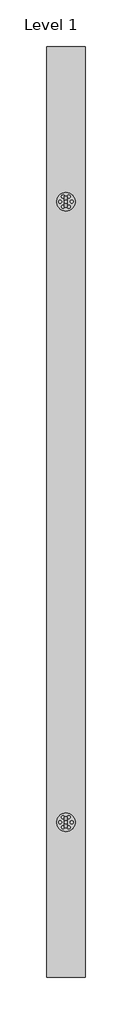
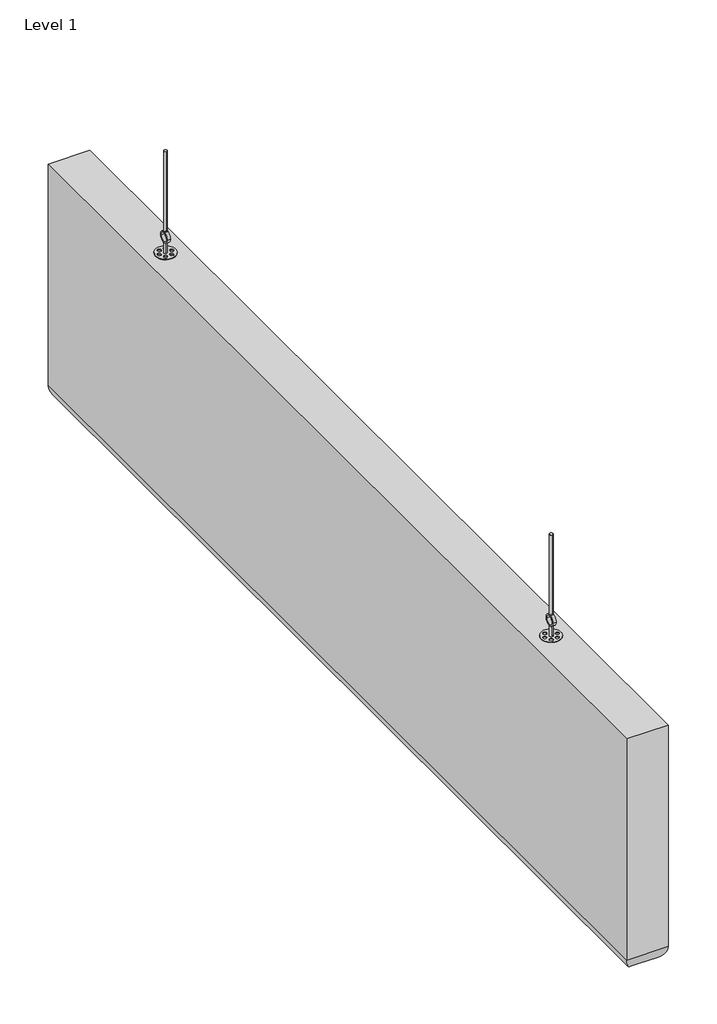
# One storey: 1 proxy.
"""IFC4 building model written with IfcOpenShell, lengths in millimetres."""

import ifcopenshell
import ifcopenshell.guid

model = None  # the IFC model being written
_history = None  # IfcOwnerHistory: only IFC2X3 demands one
_inside = {}  # id of a spatial element -> (the spatial element, [elements in it])
_under = {}  # id of a project, library or spatial element -> (it, [spatial elements below it])
_declared = {}  # id of a project -> (the project, [libraries it declares])
_typed = {}  # id of a type object -> (the type object, [elements of that type])
_made_of = {}  # id of a material, layer set ... -> (it, [elements and type objects made of it])


def new_model(schema):
    """Start an empty IFC model of exactly this schema.

    Asked for "IFC4X3", IfcOpenShell would pick the latest addendum, in which some entities
    have other attributes; the version numbers below select the first issue.
    IFC2X3 requires an IfcOwnerHistory on every rooted entity: one is made here for all.
    """
    global model, _history
    if schema == "IFC4X3":
        model = ifcopenshell.file(schema_version=(4, 3, 0, 0))
    else:
        model = ifcopenshell.file(schema=schema)
    _inside.clear()
    _under.clear()
    _declared.clear()
    _typed.clear()
    _made_of.clear()
    _history = None
    if model.schema == "IFC2X3":
        org = make("IfcOrganization", Name="unknown")
        user = make(
            "IfcPersonAndOrganization",
            ThePerson=make("IfcPerson", FamilyName="unknown"),
            TheOrganization=org,
        )
        app = make(
            "IfcApplication",
            ApplicationDeveloper=org,
            Version="unknown",
            ApplicationFullName="unknown",
            ApplicationIdentifier="unknown",
        )
        _history = make(
            "IfcOwnerHistory",
            OwningUser=user,
            OwningApplication=app,
            ChangeAction="ADDED",
            CreationDate=0,
        )
    return model


def make(cls, **values):
    """One entity of the class cls with the attributes given. An attribute that is None is left unset."""
    return model.create_entity(
        cls, **{name: value for name, value in values.items() if value is not None}
    )


def rooted(cls, **values):
    """An entity with a GlobalId (a new one), such as an element, a storey or a relation."""
    return make(cls, GlobalId=ifcopenshell.guid.new(), OwnerHistory=_history, **values)


def si_unit(unit_type, name, prefix=None):
    """IfcSIUnit, for example si_unit("LENGTHUNIT", "METRE", prefix="MILLI")."""
    return make("IfcSIUnit", UnitType=unit_type, Prefix=prefix, Name=name)


def assignment(units):
    """IfcUnitAssignment: the units of a project."""
    return None if units is None else make("IfcUnitAssignment", Units=units)


def point(xyz):
    """IfcCartesianPoint."""
    return None if xyz is None else make("IfcCartesianPoint", Coordinates=xyz)


def direction(xyz):
    """IfcDirection."""
    return None if xyz is None else make("IfcDirection", DirectionRatios=xyz)


def frame(location, z_axis=None, x_axis=None):
    """IfcAxis2Placement3D, a coordinate frame: its origin and axes. An axis left out is left unset."""
    return make(
        "IfcAxis2Placement3D",
        Location=point(location),
        Axis=direction(z_axis),
        RefDirection=direction(x_axis),
    )


def frame_2d(location, x_axis=None):
    """IfcAxis2Placement2D, a coordinate frame in the plane: its origin and x axis."""
    return make(
        "IfcAxis2Placement2D", Location=point(location), RefDirection=direction(x_axis)
    )


def origin():
    """The frame at (0, 0, 0) with its axes left unset."""
    return frame((0.0, 0.0, 0.0))


def place(relative_to, where):
    """IfcLocalPlacement: puts the frame where relative to a parent placement (None: the world)."""
    return make(
        "IfcLocalPlacement", PlacementRelTo=relative_to, RelativePlacement=where
    )


def context(
    kind, dimensions, precision=None, world=None, true_north=None, identifier=None
):
    """IfcGeometricRepresentationContext, for example the 3D "Model" context."""
    return make(
        "IfcGeometricRepresentationContext",
        ContextIdentifier=identifier,
        ContextType=kind,
        CoordinateSpaceDimension=dimensions,
        Precision=precision,
        WorldCoordinateSystem=world,
        TrueNorth=true_north,
    )


def project(units=None, contexts=None):
    """IfcProject with its units and contexts."""
    return rooted(
        "IfcProject",
        Name="project",
        RepresentationContexts=contexts,
        UnitsInContext=assignment(units),
    )


def spatial(cls, under=None, at=None, **own):
    """A site, building, storey or space (cls), placed at a placement, below another one or the project."""
    s = rooted(cls, ObjectPlacement=at, **own)
    if under is not None:
        _under.setdefault(under.id(), (under, []))[1].append(s)
    return s


def circle_curve(where, radius):
    """IfcCircle in the frame where."""
    return make("IfcCircle", Position=where, Radius=radius)


def ellipse_curve(where, semi_axis1, semi_axis2):
    """IfcEllipse in the frame where."""
    return make(
        "IfcEllipse", Position=where, SemiAxis1=semi_axis1, SemiAxis2=semi_axis2
    )


def trimmed(basis, trim1, trim2, sense, master):
    """IfcTrimmedCurve: the piece of a basis curve between two trims."""
    return make(
        "IfcTrimmedCurve",
        BasisCurve=basis,
        Trim1=trim1,
        Trim2=trim2,
        SenseAgreement=sense,
        MasterRepresentation=master,
    )


def segment(curve, same_sense, transition):
    """IfcCompositeCurveSegment."""
    return make(
        "IfcCompositeCurveSegment",
        Transition=transition,
        SameSense=same_sense,
        ParentCurve=curve,
    )


def composite_curve(segments, self_intersect=None):
    """IfcCompositeCurve: segments joined end to end."""
    return make("IfcCompositeCurve", Segments=segments, SelfIntersect=self_intersect)


def outline(outer, holes=None, kind="AREA"):
    """IfcArbitraryClosedProfileDef: a profile drawn as a closed curve; with holes, ...WithVoids."""
    if holes is None:
        return make("IfcArbitraryClosedProfileDef", ProfileType=kind, OuterCurve=outer)
    return make(
        "IfcArbitraryProfileDefWithVoids",
        ProfileType=kind,
        OuterCurve=outer,
        InnerCurves=holes,
    )


def extrude(swept, where, along, depth):
    """IfcExtrudedAreaSolid: the profile swept, set in the frame where, extruded along a direction by depth."""
    return make(
        "IfcExtrudedAreaSolid",
        SweptArea=swept,
        Position=where,
        ExtrudedDirection=direction(along),
        Depth=depth,
    )


def shape(context_of_items, identifier, shape_type, items):
    """IfcShapeRepresentation: the items that make up one representation, for example the "Body"."""
    return make(
        "IfcShapeRepresentation",
        ContextOfItems=context_of_items,
        RepresentationIdentifier=identifier,
        RepresentationType=shape_type,
        Items=items,
    )


def source(mapping_origin, context_of_items, identifier, shape_type, items):
    """IfcRepresentationMap: a shape defined once, which mapped items show again and again."""
    return make(
        "IfcRepresentationMap",
        MappingOrigin=mapping_origin,
        MappedRepresentation=shape(context_of_items, identifier, shape_type, items),
    )


def transform(
    local_origin,
    x_axis=None,
    y_axis=None,
    z_axis=None,
    scale=None,
    scale2=None,
    scale3=None,
    uniform=True,
):
    """IfcCartesianTransformationOperator3D, or its non-uniform kind. x_axis, y_axis, z_axis: its Axis1, 2, 3."""
    if uniform:
        return make(
            "IfcCartesianTransformationOperator3D",
            Axis1=direction(x_axis),
            Axis2=direction(y_axis),
            LocalOrigin=point(local_origin),
            Scale=scale,
            Axis3=direction(z_axis),
        )
    return make(
        "IfcCartesianTransformationOperator3DnonUniform",
        Axis1=direction(x_axis),
        Axis2=direction(y_axis),
        LocalOrigin=point(local_origin),
        Scale=scale,
        Axis3=direction(z_axis),
        Scale2=scale2,
        Scale3=scale3,
    )


def mapped(mapping_source, mapping_target):
    """IfcMappedItem: shows the shape of a source again, moved by a transform."""
    return make(
        "IfcMappedItem", MappingSource=mapping_source, MappingTarget=mapping_target
    )


def made_of(thing, what):
    """Note that an element or type object is made of a material, layer set ...; save() writes the relation."""
    if what is not None:
        _made_of.setdefault(what.id(), (what, []))[1].append(thing)
    return thing


def element(
    cls,
    number,
    at=None,
    inside=None,
    cuts=None,
    type_object=None,
    material=None,
    context=None,
    identifier="Body",
    shape_type=None,
    held_by="IfcProductDefinitionShape",
    body=None,
    shapes=None,
    **own,
):
    """One element of the class cls, such as IfcWall. Its Tag is "e" and its number.

    at: its placement. inside: the storey or other place that contains it. cuts: it is an
    opening in that element (IfcRelVoidsElement). A single representation is given by context,
    identifier, shape_type and body (its items); several are given by shapes. held_by: the class
    of the entity that holds the representations. save() writes the other relations.
    """
    e = rooted(cls, Tag="e%d" % number, ObjectPlacement=at, **own)
    if body is not None:
        shapes = [shape(context, identifier, shape_type, body)]
    if shapes is not None:
        e.Representation = make(held_by, Representations=shapes)
    if inside is not None:
        _inside.setdefault(inside.id(), (inside, []))[1].append(e)
    if cuts is not None:
        rooted(
            "IfcRelVoidsElement", RelatingBuildingElement=cuts, RelatedOpeningElement=e
        )
    if type_object is not None:
        _typed.setdefault(type_object.id(), (type_object, []))[1].append(e)
    return made_of(e, material)


def aggregate(whole, parts):
    """IfcRelAggregates: a whole, such as a stair, and the parts it consists of."""
    return rooted("IfcRelAggregates", RelatingObject=whole, RelatedObjects=parts)


def save(model, path):
    """Write the relations noted so far, then the file.

    IfcRelAggregates (storeys below a building ...), IfcRelContainedInSpatialStructure (elements
    in a storey), IfcRelDefinesByType, IfcRelAssociatesMaterial and IfcRelDeclares: one each for
    every whole, place, type object, material and project.
    """
    for whole, parts in _under.values():
        aggregate(whole, parts)
    for where, things in _inside.values():
        rooted(
            "IfcRelContainedInSpatialStructure",
            RelatedElements=things,
            RelatingStructure=where,
        )
    for kind, things in _typed.values():
        rooted("IfcRelDefinesByType", RelatedObjects=things, RelatingType=kind)
    for what, things in _made_of.values():
        rooted("IfcRelAssociatesMaterial", RelatedObjects=things, RelatingMaterial=what)
    for by, libraries in _declared.values():
        rooted("IfcRelDeclares", RelatingContext=by, RelatedDefinitions=libraries)
    model.write(path)


def plane_surface(at):
    """IfcPlane: the flat surface through the origin of the frame at, square to its z axis."""
    return make("IfcPlane", Position=at)


def cylinder_surface(at, radius):
    """IfcCylindricalSurface: all points at the distance radius from the z axis of the frame at."""
    return make("IfcCylindricalSurface", Position=at, Radius=radius)


def advanced_brep(points, edges, surfaces, faces):
    """IfcAdvancedBrep: a solid bounded by faces that lie on surfaces and meet in shared edges.

    An edge is (start, end): straight between two places in points (the first is 0);
    or (start, end, curve); or (start, end, curve, False) where it runs against its curve.
    A face is (place in surfaces, loops), or (place, loops, False) where it looks against
    its surface's normal. A loop lists edges by number (the first is 1), with a minus sign
    where the edge is run from its end to its start. The first loop is the outer one.
    """
    corners = [point(p) for p in points]
    vertices = [make("IfcVertexPoint", VertexGeometry=c) for c in corners]
    made = []
    for start, end, *more in edges:
        made.append(
            make(
                "IfcEdgeCurve",
                EdgeStart=vertices[start],
                EdgeEnd=vertices[end],
                EdgeGeometry=more[0] if more else make("IfcPolyline", Points=[corners[start], corners[end]]),
                SameSense=more[1] if len(more) > 1 else True,
            )
        )
    hull = []
    for where, loops, *sense in faces:
        bounds = []
        for j, loop in enumerate(loops):
            ring = [make("IfcOrientedEdge", EdgeElement=made[abs(k) - 1], Orientation=k > 0) for k in loop]
            bounds.append(
                make(
                    "IfcFaceOuterBound" if j == 0 else "IfcFaceBound",
                    Bound=make("IfcEdgeLoop", EdgeList=ring),
                    Orientation=True,
                )
            )
        hull.append(make("IfcAdvancedFace", Bounds=bounds, FaceSurface=surfaces[where], SameSense=sense[0] if sense else True))
    return make("IfcAdvancedBrep", Outer=make("IfcClosedShell", CfsFaces=hull))


def generic_models_ee3f37a8(model_context):
    return source(origin(), model_context, "Body", "SolidModel", [
        extrude(outline(composite_curve([segment(trimmed(circle_curve(frame_2d((400.0, 0.0)), 2.0), [point((398.0, 0.0))], [point((402.0, 0.0))], False, "CARTESIAN"), True, "CONTINUOUS"), segment(trimmed(circle_curve(frame_2d((400.0, 0.0)), 2.0), [point((402.0, 0.0))], [point((398.0, 0.0))], False, "CARTESIAN"), True, "CONTINUOUS")], self_intersect=False)), frame((0.0, 0.0, -1.3501137), z_axis=(0.0, 0.0, 1.0), x_axis=(1.0, 0.0, 0.0)), (0.0, 0.0, 1.0), 101.3501137),
        extrude(outline(composite_curve([segment(trimmed(circle_curve(frame_2d((107.0, 400.0)), 7.0), [point((107.0, 393.0))], [point((107.0, 407.0))], False, "CARTESIAN"), True, "CONTINUOUS"), segment(trimmed(circle_curve(frame_2d((107.0, 400.0)), 7.0), [point((107.0, 407.0))], [point((107.0, 393.0))], False, "CARTESIAN"), True, "CONTINUOUS")], self_intersect=False), holes=[composite_curve([segment(trimmed(circle_curve(frame_2d((107.0, 400.0)), 5.0), [point((107.0, 395.0))], [point((107.0, 405.0))], True, "CARTESIAN"), True, "CONTINUOUS"), segment(trimmed(circle_curve(frame_2d((107.0, 400.0)), 5.0), [point((107.0, 405.0))], [point((107.0, 395.0))], True, "CARTESIAN"), True, "CONTINUOUS")], self_intersect=False)]), frame((0.0, -2.0, 0.0), z_axis=(0.0, 1.0, 0.0), x_axis=(0.0, 0.0, 1.0)), (0.0, 0.0, 1.0), 4.0),
        extrude(outline(composite_curve([segment(trimmed(circle_curve(frame_2d((400.0, 0.0)), 2.0), [point((402.0, 0.0))], [point((398.0, 0.0))], False, "CARTESIAN"), True, "CONTINUOUS"), segment(trimmed(circle_curve(frame_2d((400.0, 0.0)), 2.0), [point((398.0, 0.0))], [point((402.0, 0.0))], False, "CARTESIAN"), True, "CONTINUOUS")], self_intersect=False)), frame((0.0, 0.0, 114.0), z_axis=(0.0, 0.0, 1.0), x_axis=(1.0, 0.0, 0.0)), (0.0, 0.0, 1.0), 14.0914231),
        extrude(outline(composite_curve([segment(trimmed(circle_curve(frame_2d((400.0, 0.0)), 12.0), [point((388.0, 0.0))], [point((412.0, 0.0))], False, "CARTESIAN"), True, "CONTINUOUS"), segment(trimmed(circle_curve(frame_2d((400.0, 0.0)), 12.0), [point((412.0, 0.0))], [point((388.0, 0.0))], False, "CARTESIAN"), True, "CONTINUOUS")], self_intersect=False), holes=[composite_curve([segment(trimmed(circle_curve(frame_2d((400.0, 0.0)), 2.0), [point((398.0, 0.0))], [point((402.0, 0.0))], True, "CARTESIAN"), True, "CONTINUOUS"), segment(trimmed(circle_curve(frame_2d((400.0, 0.0)), 2.0), [point((402.0, 0.0))], [point((398.0, 0.0))], True, "CARTESIAN"), True, "CONTINUOUS")], self_intersect=False), composite_curve([segment(trimmed(circle_curve(frame_2d((400.0, 7.5561162)), 2.0), [point((398.0, 7.5561162))], [point((402.0, 7.5561162))], True, "CARTESIAN"), True, "CONTINUOUS"), segment(trimmed(circle_curve(frame_2d((400.0, 7.5561162)), 2.0), [point((402.0, 7.5561162))], [point((398.0, 7.5561162))], True, "CARTESIAN"), True, "CONTINUOUS")], self_intersect=False), composite_curve([segment(trimmed(circle_curve(frame_2d((406.6821678, 3.7395973)), 2.0), [point((404.6821678, 3.7395973))], [point((408.6821678, 3.7395973))], True, "CARTESIAN"), True, "CONTINUOUS"), segment(trimmed(circle_curve(frame_2d((406.6821678, 3.7395973)), 2.0), [point((408.6821678, 3.7395973))], [point((404.6821678, 3.7395973))], True, "CARTESIAN"), True, "CONTINUOUS")], self_intersect=False), composite_curve([segment(trimmed(circle_curve(frame_2d((393.491743, 3.7395973)), 2.0), [point((391.491743, 3.7395973))], [point((395.491743, 3.7395973))], True, "CARTESIAN"), True, "CONTINUOUS"), segment(trimmed(circle_curve(frame_2d((393.491743, 3.7395973)), 2.0), [point((395.491743, 3.7395973))], [point((391.491743, 3.7395973))], True, "CARTESIAN"), True, "CONTINUOUS")], self_intersect=False), composite_curve([segment(trimmed(circle_curve(frame_2d((400.0, -7.5561162)), 2.0), [point((398.0, -7.5561162))], [point((402.0, -7.5561162))], True, "CARTESIAN"), True, "CONTINUOUS"), segment(trimmed(circle_curve(frame_2d((400.0, -7.5561162)), 2.0), [point((402.0, -7.5561162))], [point((398.0, -7.5561162))], True, "CARTESIAN"), True, "CONTINUOUS")], self_intersect=False), composite_curve([segment(trimmed(circle_curve(frame_2d((406.6821678, -3.7395973)), 2.0), [point((404.6821678, -3.7395973))], [point((408.6821678, -3.7395973))], True, "CARTESIAN"), True, "CONTINUOUS"), segment(trimmed(circle_curve(frame_2d((406.6821678, -3.7395973)), 2.0), [point((408.6821678, -3.7395973))], [point((404.6821678, -3.7395973))], True, "CARTESIAN"), True, "CONTINUOUS")], self_intersect=False), composite_curve([segment(trimmed(circle_curve(frame_2d((393.491743, -3.7395973)), 2.0), [point((391.491743, -3.7395973))], [point((395.491743, -3.7395973))], True, "CARTESIAN"), True, "CONTINUOUS"), segment(trimmed(circle_curve(frame_2d((393.491743, -3.7395973)), 2.0), [point((395.491743, -3.7395973))], [point((391.491743, -3.7395973))], True, "CARTESIAN"), True, "CONTINUOUS")], self_intersect=False)]), frame((0.0, 0.0, 127.0914231), z_axis=(0.0, 0.0, 1.0), x_axis=(1.0, 0.0, 0.0)), (0.0, 0.0, 1.0), 1.0),
        advanced_brep(
        [(-600.0, -25.0, 128.0914231), (600.0, -25.0, 128.0914231), (600.0, -25.0, 408.0914231), (-600.0, -25.0, 408.0914231), (600.0, 25.0, 128.0914231), (-600.0, 25.0, 128.0914231), (-600.0, 25.0, 408.0914231), (600.0, 25.0, 408.0914231), (580.0, 5.0, 428.0914231), (-580.0, 5.0, 428.0914231), (-580.0, -5.0, 428.0914231), (580.0, -5.0, 428.0914231)],
        [
            (0, 1),
            (1, 2),
            (2, 3),
            (3, 0),
            (4, 5),
            (5, 6),
            (6, 7),
            (7, 4),
            (1, 4),
            (7, 2),
            (8, 9),
            (9, 10),
            (10, 11),
            (11, 8),
            (5, 0),
            (3, 6),
            (6, 9, ellipse_curve(frame((-580.0, 5.0, 408.0914231), z_axis=(0.7071067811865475, 0.7071067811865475, 0.0), x_axis=(-0.7071067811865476, 0.7071067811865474, 0.0)), 28.2842712, 20.0)),
            (8, 7, ellipse_curve(frame((580.0, 5.0, 408.0914231), z_axis=(-0.7071067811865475, 0.7071067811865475, 0.0), x_axis=(-0.7071067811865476, -0.7071067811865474, 0.0)), 28.2842712, 20.0)),
            (3, 10, ellipse_curve(frame((-580.0, -5.0, 408.0914231), z_axis=(-0.7071067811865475, 0.7071067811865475, 0.0), x_axis=(-0.7071067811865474, -0.7071067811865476, 0.0)), 28.2842712, 20.0)),
            (2, 11, ellipse_curve(frame((580.0, -5.0, 408.0914231), z_axis=(-0.7071067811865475, -0.7071067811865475, 0.0), x_axis=(0.7071067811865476, -0.7071067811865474, 0.0)), 28.2842712, 20.0)),
        ],
        [
            plane_surface(frame((600.0, -25.0, 128.0914231), z_axis=(0.0, -1.0, 0.0), x_axis=(0.0, 0.0, 1.0))),
            plane_surface(frame((600.0, 25.0, 128.0914231), z_axis=(0.0, 1.0, 0.0), x_axis=(0.0, 0.0, -1.0))),
            plane_surface(frame((600.0, -25.0, 128.0914231), z_axis=(1.0, 0.0, 0.0), x_axis=(0.0, 1.0, 0.0))),
            plane_surface(frame((600.0, -25.0, 428.0914231), z_axis=(0.0, 0.0, 1.0), x_axis=(0.0, 1.0, 0.0))),
            plane_surface(frame((-600.0, -25.0, 428.0914231), z_axis=(-1.0, 0.0, 0.0), x_axis=(0.0, 1.0, 0.0))),
            plane_surface(frame((-600.0, -25.0, 128.0914231), z_axis=(0.0, 0.0, -1.0), x_axis=(0.0, 1.0, 0.0))),
            cylinder_surface(frame((600.0, 5.0, 408.0914231), z_axis=(-1.0, 0.0, 0.0), x_axis=(0.0, -1.0, 0.0)), 20.0),
            cylinder_surface(frame((-580.0, 25.0, 408.0914231), z_axis=(0.0, -1.0, 0.0), x_axis=(1.0, 0.0, 0.0)), 20.0),
            cylinder_surface(frame((-600.0, -5.0, 408.0914231), z_axis=(1.0, 0.0, 0.0), x_axis=(0.0, 1.0, 0.0)), 20.0),
            cylinder_surface(frame((580.0, -25.0, 408.0914231), z_axis=(0.0, 1.0, 0.0), x_axis=(-1.0, 0.0, 0.0)), 20.0),
        ],
        [
            (0, [[1, 2, 3, 4]]),
            (1, [[5, 6, 7, 8]]),
            (2, [[9, -8, 10, -2]]),
            (3, [[11, 12, 13, 14]]),
            (4, [[15, -4, 16, -6]]),
            (5, [[-1, -15, -5, -9]]),
            (6, [[17, -11, 18, -7]]),
            (7, [[-17, -16, 19, -12]]),
            (8, [[-19, -3, 20, -13]]),
            (9, [[-18, -14, -20, -10]]),
        ],
    ),
        extrude(outline(composite_curve([segment(trimmed(circle_curve(frame_2d((-400.0, 0.0)), 2.0), [point((-402.0, 0.0))], [point((-398.0, 0.0))], False, "CARTESIAN"), True, "CONTINUOUS"), segment(trimmed(circle_curve(frame_2d((-400.0, 0.0)), 2.0), [point((-398.0, 0.0))], [point((-402.0, 0.0))], False, "CARTESIAN"), True, "CONTINUOUS")], self_intersect=False)), frame((0.0, 0.0, -1.3501137), z_axis=(0.0, 0.0, 1.0), x_axis=(1.0, 0.0, 0.0)), (0.0, 0.0, 1.0), 101.3501137),
        extrude(outline(composite_curve([segment(trimmed(circle_curve(frame_2d((107.0, -400.0)), 7.0), [point((107.0, -407.0))], [point((107.0, -393.0))], False, "CARTESIAN"), True, "CONTINUOUS"), segment(trimmed(circle_curve(frame_2d((107.0, -400.0)), 7.0), [point((107.0, -393.0))], [point((107.0, -407.0))], False, "CARTESIAN"), True, "CONTINUOUS")], self_intersect=False), holes=[composite_curve([segment(trimmed(circle_curve(frame_2d((107.0, -400.0)), 5.0), [point((107.0, -405.0))], [point((107.0, -395.0))], True, "CARTESIAN"), True, "CONTINUOUS"), segment(trimmed(circle_curve(frame_2d((107.0, -400.0)), 5.0), [point((107.0, -395.0))], [point((107.0, -405.0))], True, "CARTESIAN"), True, "CONTINUOUS")], self_intersect=False)]), frame((0.0, -2.0, 0.0), z_axis=(0.0, 1.0, 0.0), x_axis=(0.0, 0.0, 1.0)), (0.0, 0.0, 1.0), 4.0),
        extrude(outline(composite_curve([segment(trimmed(circle_curve(frame_2d((-400.0, 0.0)), 2.0), [point((-398.0, 0.0))], [point((-402.0, 0.0))], False, "CARTESIAN"), True, "CONTINUOUS"), segment(trimmed(circle_curve(frame_2d((-400.0, 0.0)), 2.0), [point((-402.0, 0.0))], [point((-398.0, 0.0))], False, "CARTESIAN"), True, "CONTINUOUS")], self_intersect=False)), frame((0.0, 0.0, 114.0), z_axis=(0.0, 0.0, 1.0), x_axis=(1.0, 0.0, 0.0)), (0.0, 0.0, 1.0), 14.0914231),
        extrude(outline(composite_curve([segment(trimmed(circle_curve(frame_2d((-400.0, 0.0)), 12.0), [point((-412.0, 0.0))], [point((-388.0, 0.0))], False, "CARTESIAN"), True, "CONTINUOUS"), segment(trimmed(circle_curve(frame_2d((-400.0, 0.0)), 12.0), [point((-388.0, 0.0))], [point((-412.0, 0.0))], False, "CARTESIAN"), True, "CONTINUOUS")], self_intersect=False), holes=[composite_curve([segment(trimmed(circle_curve(frame_2d((-400.0, 0.0)), 2.0), [point((-402.0, 0.0))], [point((-398.0, 0.0))], True, "CARTESIAN"), True, "CONTINUOUS"), segment(trimmed(circle_curve(frame_2d((-400.0, 0.0)), 2.0), [point((-398.0, 0.0))], [point((-402.0, 0.0))], True, "CARTESIAN"), True, "CONTINUOUS")], self_intersect=False), composite_curve([segment(trimmed(circle_curve(frame_2d((-400.0, 7.5561162)), 2.0), [point((-402.0, 7.5561162))], [point((-398.0, 7.5561162))], True, "CARTESIAN"), True, "CONTINUOUS"), segment(trimmed(circle_curve(frame_2d((-400.0, 7.5561162)), 2.0), [point((-398.0, 7.5561162))], [point((-402.0, 7.5561162))], True, "CARTESIAN"), True, "CONTINUOUS")], self_intersect=False), composite_curve([segment(trimmed(circle_curve(frame_2d((-393.3178322, 3.7395973)), 2.0), [point((-395.3178322, 3.7395973))], [point((-391.3178322, 3.7395973))], True, "CARTESIAN"), True, "CONTINUOUS"), segment(trimmed(circle_curve(frame_2d((-393.3178322, 3.7395973)), 2.0), [point((-391.3178322, 3.7395973))], [point((-395.3178322, 3.7395973))], True, "CARTESIAN"), True, "CONTINUOUS")], self_intersect=False), composite_curve([segment(trimmed(circle_curve(frame_2d((-406.508257, 3.7395973)), 2.0), [point((-408.508257, 3.7395973))], [point((-404.508257, 3.7395973))], True, "CARTESIAN"), True, "CONTINUOUS"), segment(trimmed(circle_curve(frame_2d((-406.508257, 3.7395973)), 2.0), [point((-404.508257, 3.7395973))], [point((-408.508257, 3.7395973))], True, "CARTESIAN"), True, "CONTINUOUS")], self_intersect=False), composite_curve([segment(trimmed(circle_curve(frame_2d((-400.0, -7.5561162)), 2.0), [point((-402.0, -7.5561162))], [point((-398.0, -7.5561162))], True, "CARTESIAN"), True, "CONTINUOUS"), segment(trimmed(circle_curve(frame_2d((-400.0, -7.5561162)), 2.0), [point((-398.0, -7.5561162))], [point((-402.0, -7.5561162))], True, "CARTESIAN"), True, "CONTINUOUS")], self_intersect=False), composite_curve([segment(trimmed(circle_curve(frame_2d((-393.3178322, -3.7395973)), 2.0), [point((-395.3178322, -3.7395973))], [point((-391.3178322, -3.7395973))], True, "CARTESIAN"), True, "CONTINUOUS"), segment(trimmed(circle_curve(frame_2d((-393.3178322, -3.7395973)), 2.0), [point((-391.3178322, -3.7395973))], [point((-395.3178322, -3.7395973))], True, "CARTESIAN"), True, "CONTINUOUS")], self_intersect=False), composite_curve([segment(trimmed(circle_curve(frame_2d((-406.508257, -3.7395973)), 2.0), [point((-408.508257, -3.7395973))], [point((-404.508257, -3.7395973))], True, "CARTESIAN"), True, "CONTINUOUS"), segment(trimmed(circle_curve(frame_2d((-406.508257, -3.7395973)), 2.0), [point((-404.508257, -3.7395973))], [point((-408.508257, -3.7395973))], True, "CARTESIAN"), True, "CONTINUOUS")], self_intersect=False)]), frame((0.0, 0.0, 127.0914231), z_axis=(0.0, 0.0, 1.0), x_axis=(1.0, 0.0, 0.0)), (0.0, 0.0, 1.0), 1.0),
    ])


model = new_model("IFC4")

# Units and contexts
model_context = context("Model", 3, world=origin())
ifc_project = project(units=[si_unit("LENGTHUNIT", "METRE", prefix="MILLI")], contexts=[model_context])

# Site, building, storey
site = spatial("IfcSite", under=ifc_project)
building = spatial("IfcBuilding", under=site)
storey = spatial("IfcBuildingStorey", under=building, Name="Level 1", Elevation=0.0)

# Proxy
placement = place(None, origin())
generic_models_shape = generic_models_ee3f37a8(model_context)
element("IfcBuildingElementProxy", 1, Name="Rockfon Contour 1200 x 300 : Rockfon Contour 1200 x 300 mm", ObjectType="Rockfon Contour 1200 x 300 : Rockfon Contour 1200 x 300 mm", at=placement, inside=storey, context=model_context, shape_type="MappedRepresentation", body=[
    mapped(generic_models_shape, transform((-9347.7190085, 5072.1005352, 50.0), x_axis=(0.0, 1.0, 0.0), y_axis=(1.0, 0.0, 0.0), z_axis=(0.0, 0.0, -1.0))),
])

save(model, "model.ifc")
